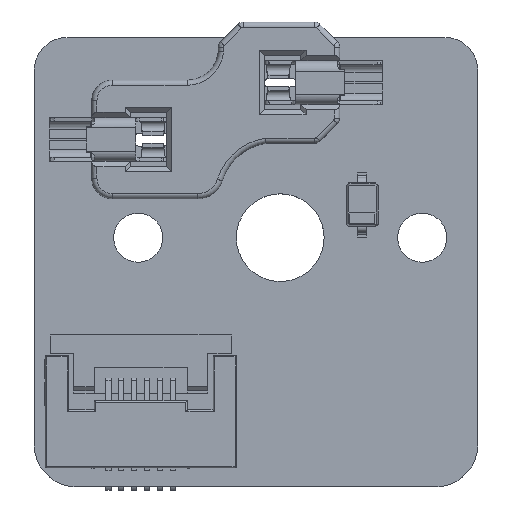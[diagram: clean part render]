
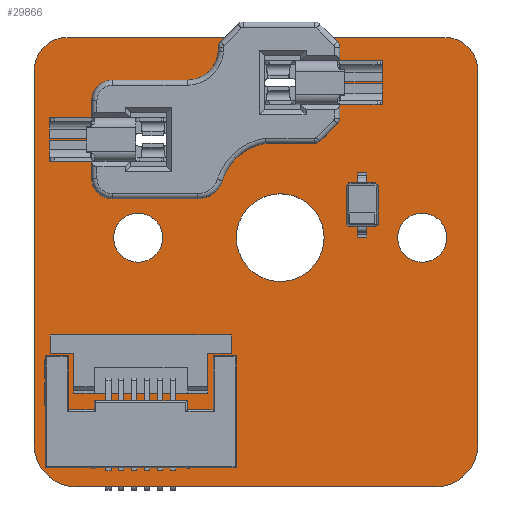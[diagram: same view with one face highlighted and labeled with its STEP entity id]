
A CAD part, top view. The second image highlights one B-rep face of the part: STEP entity #29866.
In plain terms, the highlighted planar face has unit normal (0, 0, 1).
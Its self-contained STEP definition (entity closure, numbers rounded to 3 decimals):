
#29662 = VERTEX_POINT('',#29663);
#29663 = CARTESIAN_POINT('',(154.88,-97.25,1.51));
#29669 = EDGE_CURVE('',#29662,#29670,#29672,.T.);
#29670 = VERTEX_POINT('',#29671);
#29671 = CARTESIAN_POINT('',(156.15,-98.52,1.51));
#29672 = CIRCLE('',#29673,1.27);
#29673 = AXIS2_PLACEMENT_3D('',#29674,#29675,#29676);
#29674 = CARTESIAN_POINT('',(154.88,-98.52,1.51));
#29675 = DIRECTION('',(0.,0.,-1.));
#29676 = DIRECTION('',(0.,1.,0.));
#29704 = VERTEX_POINT('',#29705);
#29705 = CARTESIAN_POINT('',(140.246,-97.25,1.51));
#29711 = EDGE_CURVE('',#29704,#29662,#29712,.T.);
#29712 = LINE('',#29713,#29714);
#29713 = CARTESIAN_POINT('',(140.246,-97.25,1.51));
#29714 = VECTOR('',#29715,1.);
#29715 = DIRECTION('',(1.,0.,0.));
#29733 = EDGE_CURVE('',#29670,#29734,#29736,.T.);
#29734 = VERTEX_POINT('',#29735);
#29735 = CARTESIAN_POINT('',(156.15,-113.031,1.51));
#29736 = LINE('',#29737,#29738);
#29737 = CARTESIAN_POINT('',(156.15,-98.52,1.51));
#29738 = VECTOR('',#29739,1.);
#29739 = DIRECTION('',(0.,-1.,0.));
#29866 = ADVANCED_FACE('',(#29867,#29913,#29924,#29935,#29946,#29957),
  #29968,.T.);
#29867 = FACE_BOUND('',#29868,.T.);
#29868 = EDGE_LOOP('',(#29869,#29870,#29871,#29880,#29888,#29897,#29905,
    #29912));
#29869 = ORIENTED_EDGE('',*,*,#29669,.F.);
#29870 = ORIENTED_EDGE('',*,*,#29711,.F.);
#29871 = ORIENTED_EDGE('',*,*,#29872,.F.);
#29872 = EDGE_CURVE('',#29873,#29704,#29875,.T.);
#29873 = VERTEX_POINT('',#29874);
#29874 = CARTESIAN_POINT('',(138.976,-98.52,1.51));
#29875 = CIRCLE('',#29876,1.27);
#29876 = AXIS2_PLACEMENT_3D('',#29877,#29878,#29879);
#29877 = CARTESIAN_POINT('',(140.246,-98.52,1.51));
#29878 = DIRECTION('',(0.,0.,-1.));
#29879 = DIRECTION('',(-1.,0.,-0.));
#29880 = ORIENTED_EDGE('',*,*,#29881,.F.);
#29881 = EDGE_CURVE('',#29882,#29873,#29884,.T.);
#29882 = VERTEX_POINT('',#29883);
#29883 = CARTESIAN_POINT('',(138.976,-113.031,1.51));
#29884 = LINE('',#29885,#29886);
#29885 = CARTESIAN_POINT('',(138.976,-113.031,1.51));
#29886 = VECTOR('',#29887,1.);
#29887 = DIRECTION('',(0.,1.,0.));
#29888 = ORIENTED_EDGE('',*,*,#29889,.F.);
#29889 = EDGE_CURVE('',#29890,#29882,#29892,.T.);
#29890 = VERTEX_POINT('',#29891);
#29891 = CARTESIAN_POINT('',(140.595,-114.65,1.51));
#29892 = CIRCLE('',#29893,1.619);
#29893 = AXIS2_PLACEMENT_3D('',#29894,#29895,#29896);
#29894 = CARTESIAN_POINT('',(140.595,-113.031,1.51));
#29895 = DIRECTION('',(0.,0.,-1.));
#29896 = DIRECTION('',(0.,-1.,-0.));
#29897 = ORIENTED_EDGE('',*,*,#29898,.F.);
#29898 = EDGE_CURVE('',#29899,#29890,#29901,.T.);
#29899 = VERTEX_POINT('',#29900);
#29900 = CARTESIAN_POINT('',(154.531,-114.65,1.51));
#29901 = LINE('',#29902,#29903);
#29902 = CARTESIAN_POINT('',(154.531,-114.65,1.51));
#29903 = VECTOR('',#29904,1.);
#29904 = DIRECTION('',(-1.,0.,0.));
#29905 = ORIENTED_EDGE('',*,*,#29906,.F.);
#29906 = EDGE_CURVE('',#29734,#29899,#29907,.T.);
#29907 = CIRCLE('',#29908,1.619);
#29908 = AXIS2_PLACEMENT_3D('',#29909,#29910,#29911);
#29909 = CARTESIAN_POINT('',(154.531,-113.031,1.51));
#29910 = DIRECTION('',(0.,0.,-1.));
#29911 = DIRECTION('',(1.,0.,0.));
#29912 = ORIENTED_EDGE('',*,*,#29733,.F.);
#29913 = FACE_BOUND('',#29914,.T.);
#29914 = EDGE_LOOP('',(#29915));
#29915 = ORIENTED_EDGE('',*,*,#29916,.T.);
#29916 = EDGE_CURVE('',#29917,#29917,#29919,.T.);
#29917 = VERTEX_POINT('',#29918);
#29918 = CARTESIAN_POINT('',(143.001,-105.954,1.51));
#29919 = CIRCLE('',#29920,0.95);
#29920 = AXIS2_PLACEMENT_3D('',#29921,#29922,#29923);
#29921 = CARTESIAN_POINT('',(143.001,-105.004,1.51));
#29922 = DIRECTION('',(-0.,0.,-1.));
#29923 = DIRECTION('',(-0.,-1.,0.));
#29924 = FACE_BOUND('',#29925,.T.);
#29925 = EDGE_LOOP('',(#29926));
#29926 = ORIENTED_EDGE('',*,*,#29927,.T.);
#29927 = EDGE_CURVE('',#29928,#29928,#29930,.T.);
#29928 = VERTEX_POINT('',#29929);
#29929 = CARTESIAN_POINT('',(148.501,-106.704,1.51));
#29930 = CIRCLE('',#29931,1.7);
#29931 = AXIS2_PLACEMENT_3D('',#29932,#29933,#29934);
#29932 = CARTESIAN_POINT('',(148.501,-105.004,1.51));
#29933 = DIRECTION('',(-0.,0.,-1.));
#29934 = DIRECTION('',(-0.,-1.,0.));
#29935 = FACE_BOUND('',#29936,.T.);
#29936 = EDGE_LOOP('',(#29937));
#29937 = ORIENTED_EDGE('',*,*,#29938,.T.);
#29938 = EDGE_CURVE('',#29939,#29939,#29941,.T.);
#29939 = VERTEX_POINT('',#29940);
#29940 = CARTESIAN_POINT('',(154.001,-105.954,1.51));
#29941 = CIRCLE('',#29942,0.95);
#29942 = AXIS2_PLACEMENT_3D('',#29943,#29944,#29945);
#29943 = CARTESIAN_POINT('',(154.001,-105.004,1.51));
#29944 = DIRECTION('',(-0.,0.,-1.));
#29945 = DIRECTION('',(-0.,-1.,0.));
#29946 = FACE_BOUND('',#29947,.T.);
#29947 = EDGE_LOOP('',(#29948));
#29948 = ORIENTED_EDGE('',*,*,#29949,.T.);
#29949 = EDGE_CURVE('',#29950,#29950,#29952,.T.);
#29950 = VERTEX_POINT('',#29951);
#29951 = CARTESIAN_POINT('',(143.501,-102.704,1.51));
#29952 = CIRCLE('',#29953,1.5);
#29953 = AXIS2_PLACEMENT_3D('',#29954,#29955,#29956);
#29954 = CARTESIAN_POINT('',(143.501,-101.204,1.51));
#29955 = DIRECTION('',(-0.,0.,-1.));
#29956 = DIRECTION('',(-0.,-1.,0.));
#29957 = FACE_BOUND('',#29958,.T.);
#29958 = EDGE_LOOP('',(#29959));
#29959 = ORIENTED_EDGE('',*,*,#29960,.T.);
#29960 = EDGE_CURVE('',#29961,#29961,#29963,.T.);
#29961 = VERTEX_POINT('',#29962);
#29962 = CARTESIAN_POINT('',(148.501,-100.604,1.51));
#29963 = CIRCLE('',#29964,1.5);
#29964 = AXIS2_PLACEMENT_3D('',#29965,#29966,#29967);
#29965 = CARTESIAN_POINT('',(148.501,-99.104,1.51));
#29966 = DIRECTION('',(-0.,0.,-1.));
#29967 = DIRECTION('',(-0.,-1.,0.));
#29968 = PLANE('',#29969);
#29969 = AXIS2_PLACEMENT_3D('',#29970,#29971,#29972);
#29970 = CARTESIAN_POINT('',(0.,0.,1.51));
#29971 = DIRECTION('',(0.,0.,1.));
#29972 = DIRECTION('',(1.,0.,-0.));
